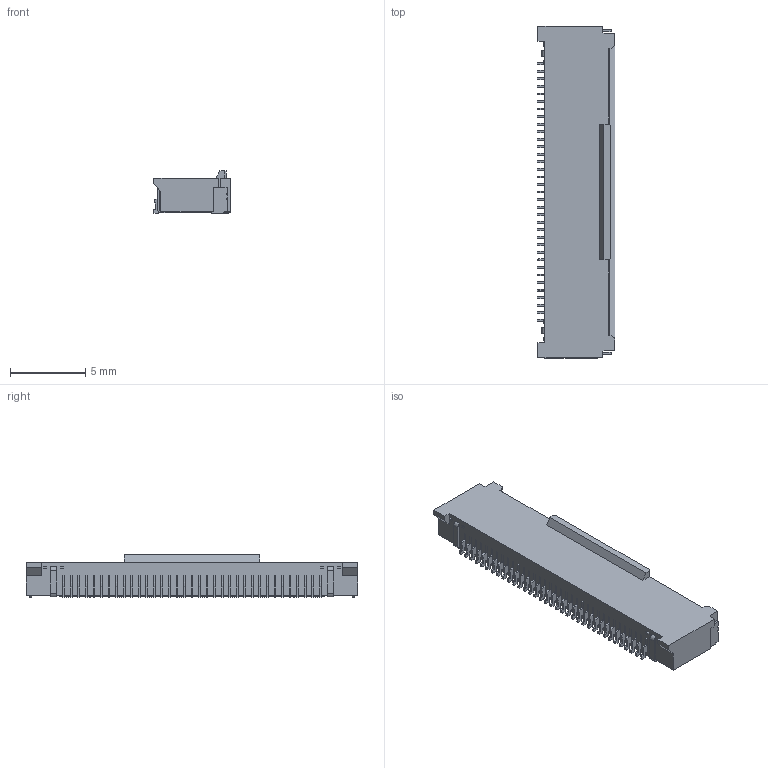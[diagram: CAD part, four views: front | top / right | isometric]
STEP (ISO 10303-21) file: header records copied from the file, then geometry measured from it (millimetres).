
FILE_DESCRIPTION (( 'STEP AP203' ), '1' );
FILE_NAME ('6893RA-35p.STEP', '2023-06-26T09:16:07', ( '' ), ( '' ), 'SwSTEP 2.0', 'SolidWorks 2021', '' );
FILE_SCHEMA (( 'CONFIG_CONTROL_DESIGN' ));
Length unit declared in the file: millimetre
Products named in the file (1): 6893RA-35p
Bounding box: 5.15 x 22 x 2.8 mm (x, y, z)
Volume: 218.9 mm3; surface area: 382.1 mm2
Topology: 1 solids, 1 shells, 809 faces, 2276 edges, 1516 vertices
Faces by surface type: plane 565, cylinder 244
Entity records: 26111 total; most frequent: CARTESIAN_POINT 4602, ORIENTED_EDGE 4552, DIRECTION 4384, EDGE_CURVE 2276, LINE 1788, VECTOR 1788, VERTEX_POINT 1516, AXIS2_PLACEMENT_3D 1298
